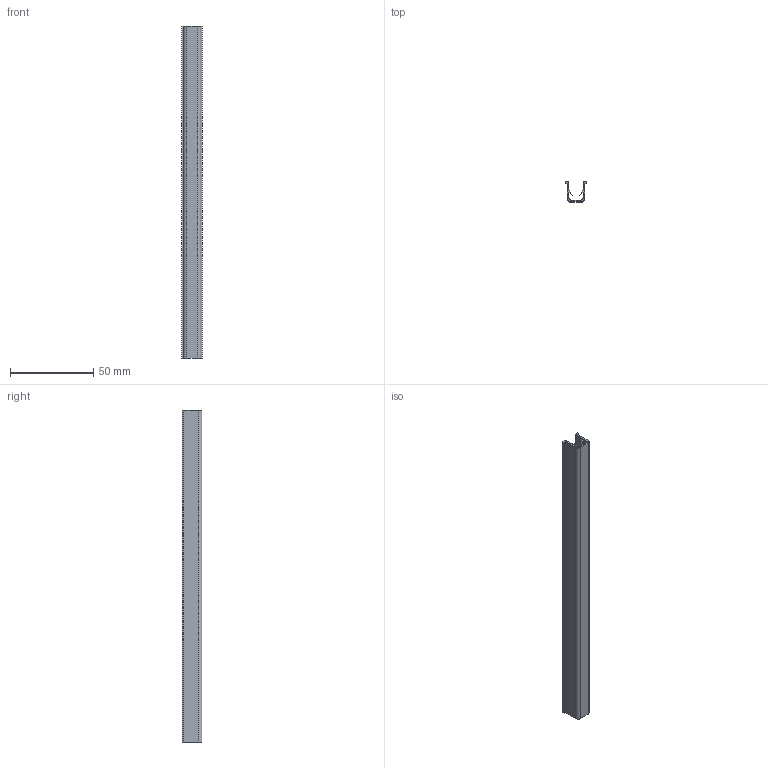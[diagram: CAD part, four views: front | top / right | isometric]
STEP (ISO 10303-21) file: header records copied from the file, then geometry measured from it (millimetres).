
FILE_DESCRIPTION((''),'2;1');
FILE_NAME('E:\catalogue and flyer\Profile catalogue 2015\Accessories ACC info\Accessories ACC step file 31Mar16\ACC-US2000-10.stp','2016-04-07T15:20:10',('h029'),(''),'Autodesk Inventor 11','Autodesk Inventor 11','');
FILE_SCHEMA(('AUTOMOTIVE_DESIGN { 1 0 10303 214 1 1 1 1 }'));
Length unit declared in the file: millimetre
Products named in the file (1): ACC-US2000-10
Bounding box: 12.5 x 12 x 200 mm (x, y, z)
Volume: 7178 mm3; surface area: 15808.5 mm2
Topology: 1 solids, 1 shells, 24 faces, 66 edges, 44 vertices
Faces by surface type: plane 20, cylinder 4
Entity records: 781 total; most frequent: CARTESIAN_POINT 135, ORIENTED_EDGE 132, DIRECTION 124, EDGE_CURVE 66, VECTOR 58, LINE 58, VERTEX_POINT 44, AXIS2_PLACEMENT_3D 33
